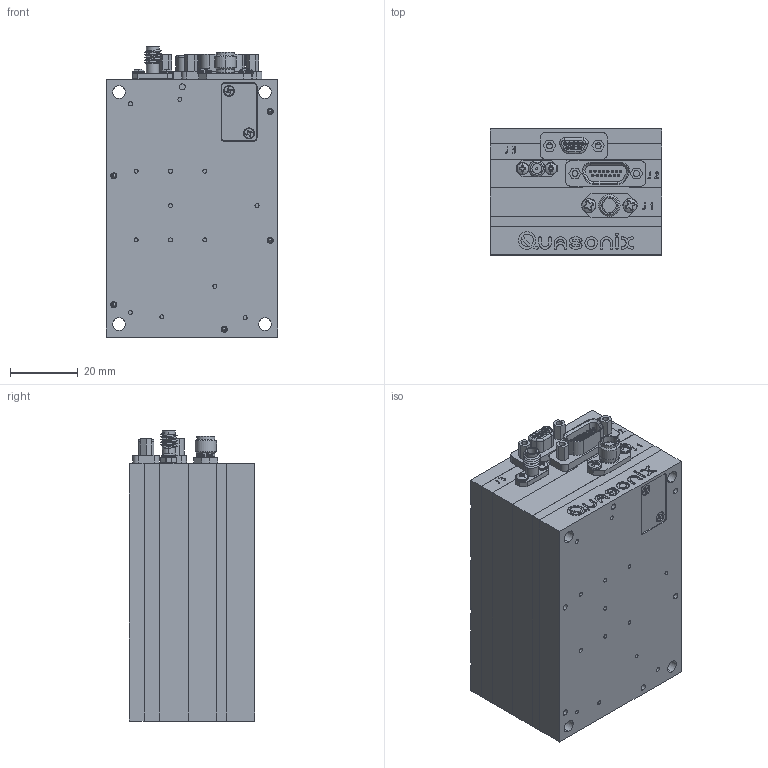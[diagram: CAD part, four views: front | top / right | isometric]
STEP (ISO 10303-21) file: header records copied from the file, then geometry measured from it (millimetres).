
FILE_DESCRIPTION (( 'STEP AP203' ), '1' );
FILE_NAME ('08AB_12-12-13.STEP', '2013-12-12T18:50:06', ( 'Quasonix' ), ( '' ), 'SwSTEP 2.0', 'SolidWorks 2012', '' );
FILE_SCHEMA (( 'CONFIG_CONTROL_DESIGN' ));
Products named in the file (1): 08AB_12-12-13
Bounding box: 50.8 x 37.15 x 85.72 mm (x, y, z)
Surface area: 28924.2 mm2 (no closed solid volume)
Topology: 0 solids, 63 shells, 1098 faces, 3670 edges, 2601 vertices
Faces by surface type: plane 561, cylinder 262, cone 162, bspline 80, torus 25, sphere 8
Entity records: 42581 total; most frequent: CARTESIAN_POINT 11095, DIRECTION 6434, ORIENTED_EDGE 6127, EDGE_CURVE 3644, VERTEX_POINT 2601, AXIS2_PLACEMENT_3D 2339, VECTOR 1756, LINE 1756
